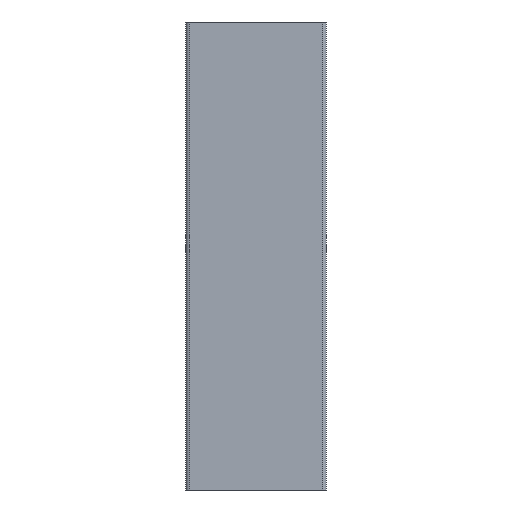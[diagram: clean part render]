
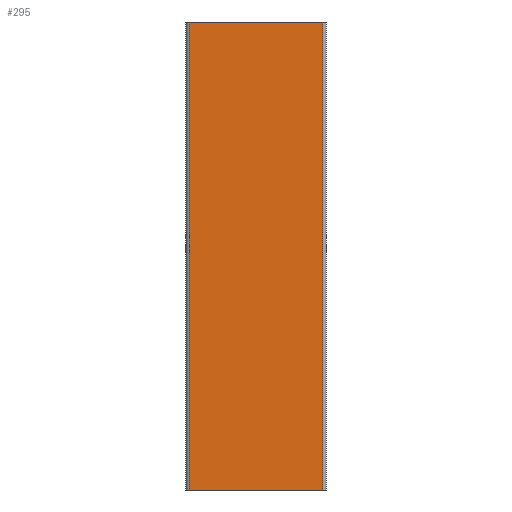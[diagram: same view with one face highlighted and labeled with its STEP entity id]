
A CAD part, front view. The second image highlights one B-rep face of the part: STEP entity #295.
In plain terms, the highlighted planar face has unit normal (0, -1, 0).
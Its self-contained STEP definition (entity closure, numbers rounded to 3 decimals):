
#51 = DIRECTION ( 'NONE',  ( 1., 0., 0. ) ) ;
#74 = CARTESIAN_POINT ( 'NONE',  ( 14.25, 0., -50. ) ) ;
#82 = FACE_OUTER_BOUND ( 'NONE', #632, .T. ) ;
#95 = LINE ( 'NONE', #494, #330 ) ;
#102 = VERTEX_POINT ( 'NONE', #145 ) ;
#112 = CARTESIAN_POINT ( 'NONE',  ( -14.25, 0., -50. ) ) ;
#119 = CARTESIAN_POINT ( 'NONE',  ( -14.25, 0., 50. ) ) ;
#145 = CARTESIAN_POINT ( 'NONE',  ( 14.25, 0., 50. ) ) ;
#152 = EDGE_CURVE ( 'NONE', #501, #102, #95, .T. ) ;
#205 = LINE ( 'NONE', #313, #259 ) ;
#207 = ORIENTED_EDGE ( 'NONE', *, *, #349, .T. ) ;
#211 = LINE ( 'NONE', #252, #312 ) ;
#244 = DIRECTION ( 'NONE',  ( 0., 1., 0. ) ) ;
#252 = CARTESIAN_POINT ( 'NONE',  ( 14.25, 0., 50. ) ) ;
#259 = VECTOR ( 'NONE', #350, 1000. ) ;
#284 = PLANE ( 'NONE',  #563 ) ;
#295 = ADVANCED_FACE ( 'NONE', ( #82 ), #284, .F. ) ;
#312 = VECTOR ( 'NONE', #604, 1000. ) ;
#313 = CARTESIAN_POINT ( 'NONE',  ( 15., 0., -50. ) ) ;
#330 = VECTOR ( 'NONE', #51, 1000. ) ;
#349 = EDGE_CURVE ( 'NONE', #544, #532, #205, .T. ) ;
#350 = DIRECTION ( 'NONE',  ( 1., 0., 0. ) ) ;
#414 = EDGE_CURVE ( 'NONE', #532, #102, #211, .T. ) ;
#423 = CARTESIAN_POINT ( 'NONE',  ( -14.25, 0., 50. ) ) ;
#430 = ORIENTED_EDGE ( 'NONE', *, *, #642, .T. ) ;
#439 = DIRECTION ( 'NONE',  ( -1., 0., 0. ) ) ;
#472 = DIRECTION ( 'NONE',  ( 0., 0., -1. ) ) ;
#486 = CARTESIAN_POINT ( 'NONE',  ( 15., 0., 50. ) ) ;
#494 = CARTESIAN_POINT ( 'NONE',  ( 15., 0., 50. ) ) ;
#501 = VERTEX_POINT ( 'NONE', #423 ) ;
#512 = ORIENTED_EDGE ( 'NONE', *, *, #414, .T. ) ;
#519 = ORIENTED_EDGE ( 'NONE', *, *, #152, .F. ) ;
#529 = VECTOR ( 'NONE', #472, 1000. ) ;
#532 = VERTEX_POINT ( 'NONE', #74 ) ;
#544 = VERTEX_POINT ( 'NONE', #112 ) ;
#563 = AXIS2_PLACEMENT_3D ( 'NONE', #486, #244, #439 ) ;
#565 = LINE ( 'NONE', #119, #529 ) ;
#604 = DIRECTION ( 'NONE',  ( 0., 0., 1. ) ) ;
#632 = EDGE_LOOP ( 'NONE', ( #519, #430, #207, #512 ) ) ;
#642 = EDGE_CURVE ( 'NONE', #501, #544, #565, .T. ) ;
